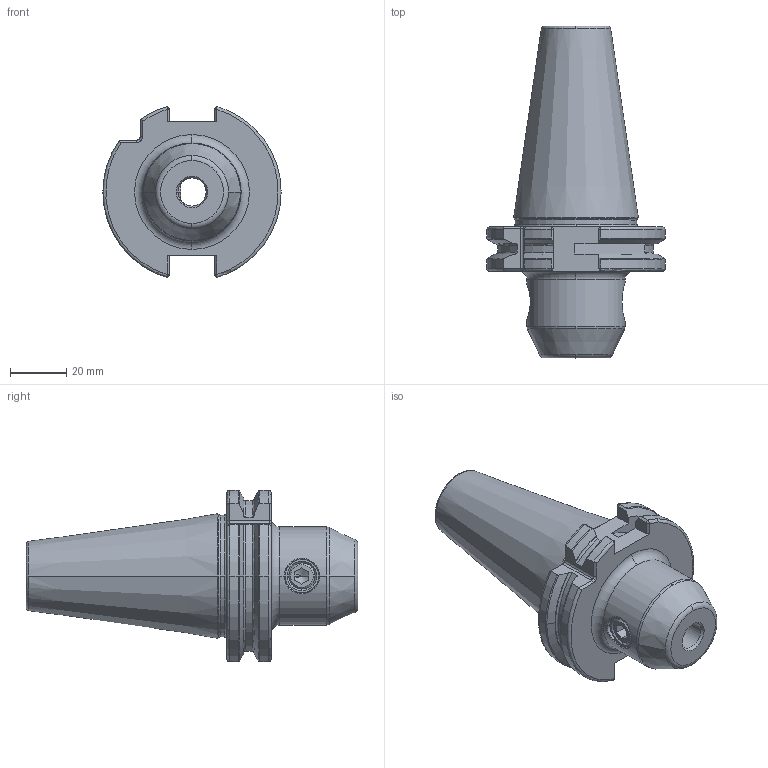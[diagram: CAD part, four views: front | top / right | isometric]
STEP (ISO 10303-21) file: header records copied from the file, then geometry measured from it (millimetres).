
FILE_DESCRIPTION (( 'STEP AP214' ), '1' );
FILE_NAME ('04-0518.STEP', '2022-02-02T18:10:56', ( '' ), ( '' ), 'SwSTEP 2.0', 'SolidWorks 2021', '' );
FILE_SCHEMA (( 'AUTOMOTIVE_DESIGN' ));
Length unit declared in the file: inch
Products named in the file (1): 04-0518
Bounding box: 63.55 x 118.4 x 61.05 mm (x, y, z)
Volume: 123550.5 mm3; surface area: 24363.6 mm2
Topology: 1 solids, 1 shells, 181 faces, 474 edges, 296 vertices
Faces by surface type: plane 56, cone 38, torus 34, cylinder 33, bspline 18, sphere 2
Entity records: 9392 total; most frequent: CARTESIAN_POINT 2696, ORIENTED_EDGE 940, DIRECTION 873, EDGE_CURVE 470, AXIS2_PLACEMENT_3D 341, VERTEX_POINT 296, VECTOR 191, LINE 191
